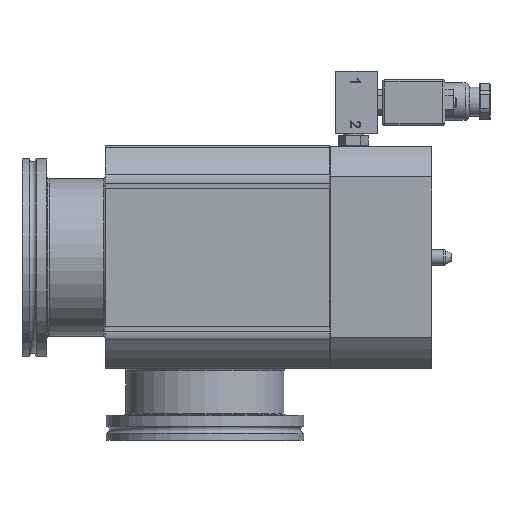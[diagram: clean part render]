
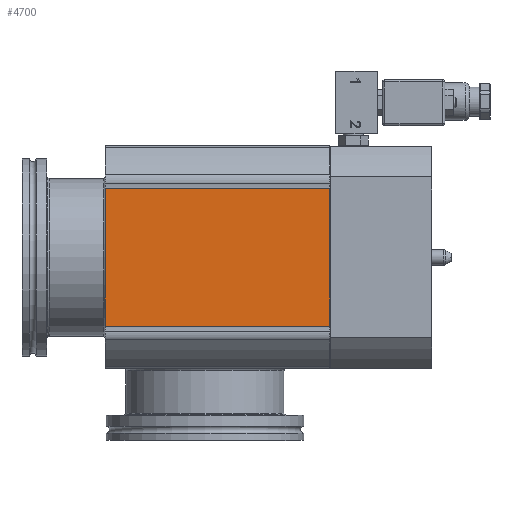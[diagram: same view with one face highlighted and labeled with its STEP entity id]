
A CAD part, top view. The second image highlights one B-rep face of the part: STEP entity #4700.
In plain terms, the highlighted planar face has unit normal (0, 0, 1) as drawn and (1, 0, 0) by its records, which use the part's own axes.
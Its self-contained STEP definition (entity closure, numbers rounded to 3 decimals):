
#2389=LINE('',#15477,#2849);
#2390=LINE('',#15522,#2850);
#2393=LINE('',#15529,#2853);
#2413=LINE('',#15597,#2873);
#2849=VECTOR('',#12077,1.);
#2850=VECTOR('',#12130,1.);
#2853=VECTOR('',#12137,1.);
#2873=VECTOR('',#12219,1.);
#3141=FACE_OUTER_BOUND('',#5796,.T.);
#4133=PLANE('',#10287);
#4700=ADVANCED_FACE('',(#3141),#4133,.F.);
#5796=EDGE_LOOP('',(#7552,#7553,#7554,#7555));
#7552=ORIENTED_EDGE('',*,*,#9222,.F.);
#7553=ORIENTED_EDGE('',*,*,#9188,.T.);
#7554=ORIENTED_EDGE('',*,*,#9166,.F.);
#7555=ORIENTED_EDGE('',*,*,#9184,.T.);
#8283=VERTEX_POINT('',#15476);
#8284=VERTEX_POINT('',#15478);
#8300=VERTEX_POINT('',#15520);
#8303=VERTEX_POINT('',#15527);
#9166=EDGE_CURVE('',#8283,#8284,#2389,.T.);
#9184=EDGE_CURVE('',#8283,#8300,#2390,.T.);
#9188=EDGE_CURVE('',#8303,#8284,#2393,.T.);
#9222=EDGE_CURVE('',#8303,#8300,#2413,.T.);
#10287=AXIS2_PLACEMENT_3D('',#15598,#12220,#12221);
#12077=DIRECTION('',(0.,0.,-1.));
#12130=DIRECTION('',(0.,-1.,0.));
#12137=DIRECTION('',(0.,1.,0.));
#12219=DIRECTION('',(0.,0.,1.));
#12220=DIRECTION('',(-1.,0.,0.));
#12221=DIRECTION('',(0.,0.,1.));
#15476=CARTESIAN_POINT('',(53.5,148.,33.11));
#15477=CARTESIAN_POINT('',(53.5,148.,34.742));
#15478=CARTESIAN_POINT('',(53.5,148.,-33.11));
#15520=CARTESIAN_POINT('',(53.5,40.,33.11));
#15522=CARTESIAN_POINT('',(53.5,0.,33.11));
#15527=CARTESIAN_POINT('',(53.5,40.,-33.11));
#15529=CARTESIAN_POINT('',(53.5,157.,-33.11));
#15597=CARTESIAN_POINT('',(53.5,40.,34.742));
#15598=CARTESIAN_POINT('',(53.5,157.,34.742));
